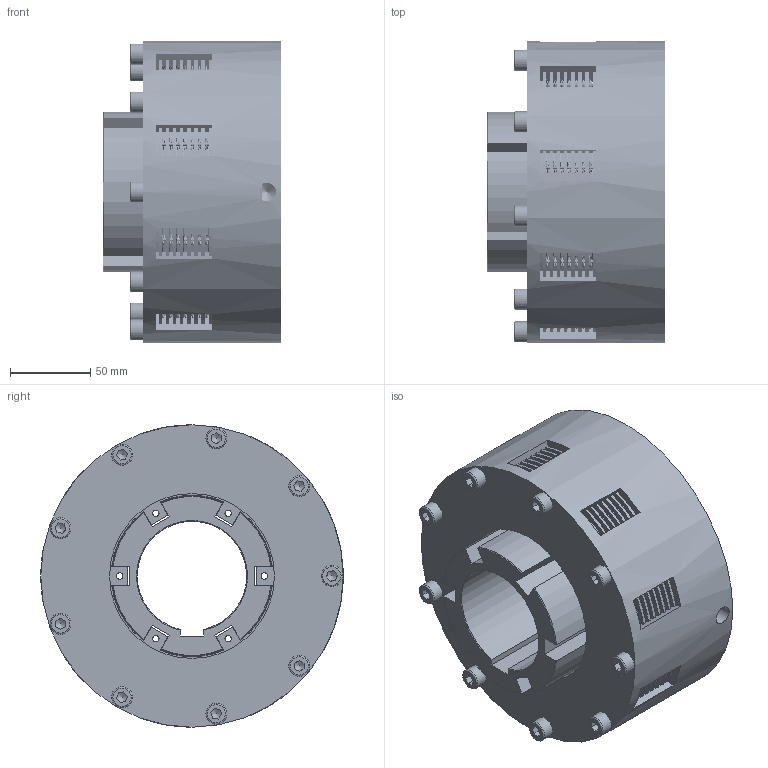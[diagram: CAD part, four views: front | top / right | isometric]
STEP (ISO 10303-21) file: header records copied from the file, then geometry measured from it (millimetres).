
FILE_DESCRIPTION(/* description */ (''),/* implementation_level */ '2;1');
FILE_NAME(/* name */ 'X:\INVENTOR\DISEGNI\03_Friz_Oleod_Pneum_Cil_Stat\03_05 FPL-BF\03_05_008_01 FPL08-BF\03_05_008_01 FPL08-BF@STEP.stp',/* time_stamp */ '2023-02-06T08:33:28+01:00',/* author */ ('alessio'),/* organization */ (''),/* preprocessor_version */ 'ST-DEVELOPER v18.1',/* originating_system */ 'Autodesk Inventor 2021',/* authorisation */ '');
FILE_SCHEMA (('AUTOMOTIVE_DESIGN { 1 0 10303 214 3 1 1 }'));
Products named in the file (1): 03_05_008_01 FPL08-V2013
Bounding box: 111 x 188 x 188 mm (x, y, z)
Volume: 1790061 mm3; surface area: 690221.8 mm2
Topology: 78 solids, 89 shells, 1373 faces, 4064 edges, 2922 vertices
Faces by surface type: plane 749, cylinder 425, cone 108, bspline 63, torus 28
Full cylindrical faces by diameter (mm): 2 x9, 2.75 x72, 3.5 x9, 4 x42, 6.647 x18, 11.445 x1, 13 x9, 100 x1, 102.5 x8, 110 x4, 113 x1, 122 x1, 125 x2, 130 x1, 135 x1, 150 x2, 153 x1, 159 x1, 160.25 x7, 162 x3, 188 x1
Entity records: 74408 total; most frequent: CARTESIAN_POINT 35520, ORIENTED_EDGE 8054, DIRECTION 7301, EDGE_CURVE 4027, VERTEX_POINT 2922, AXIS2_PLACEMENT_3D 2593, LINE 2115, VECTOR 2115
